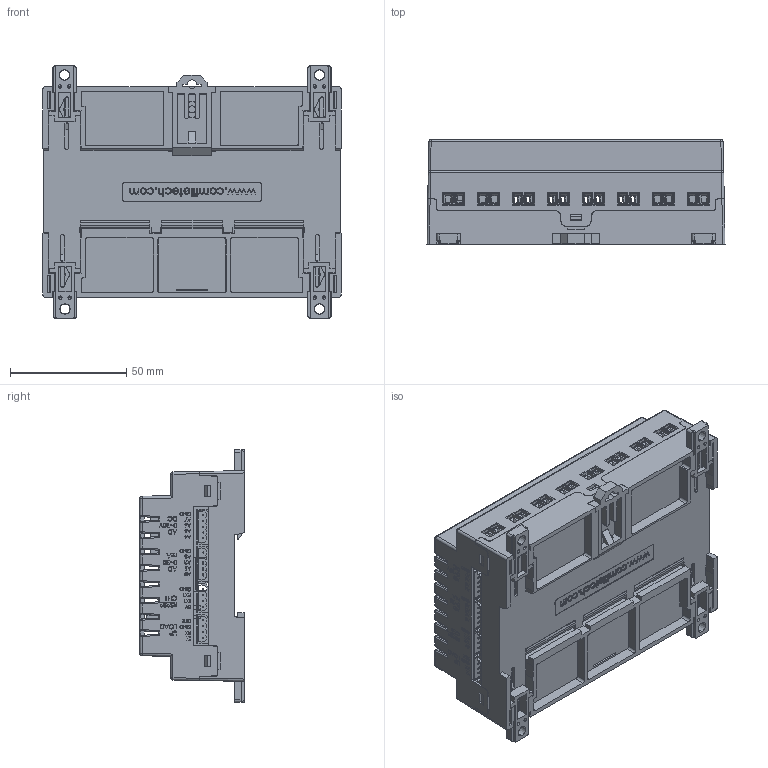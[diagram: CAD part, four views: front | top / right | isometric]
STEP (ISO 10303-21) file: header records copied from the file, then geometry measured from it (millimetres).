
FILE_DESCRIPTION (( 'STEP AP214' ), '1' );
FILE_NAME ('FA-DUINO-24RA.STEP', '2016-03-18T01:32:55', ( 'Registered User' ), ( 'Microsoft Corporation' ), 'SwSTEP 2.0', 'SolidWorks 2014', '' );
FILE_SCHEMA (( 'AUTOMOTIVE_DESIGN' ));
Length unit declared in the file: millimetre
Products named in the file (1): FA-DUINO-24RA
Bounding box: 128 x 44.91 x 108.5 mm (x, y, z)
Surface area: 97398.9 mm2 (no closed solid volume)
Topology: 0 solids, 237 shells, 3008 faces, 14262 edges, 11254 vertices
Faces by surface type: plane 2195, cylinder 365, bspline 277, cone 111, torus 52, sphere 8
Entity records: 219376 total; most frequent: CARTESIAN_POINT 81900, ORIENTED_EDGE 20111, DIRECTION 17470, EDGE_CURVE 14254, VERTEX_POINT 11254, VECTOR 10156, LINE 10156, EDGE_LOOP 3671
